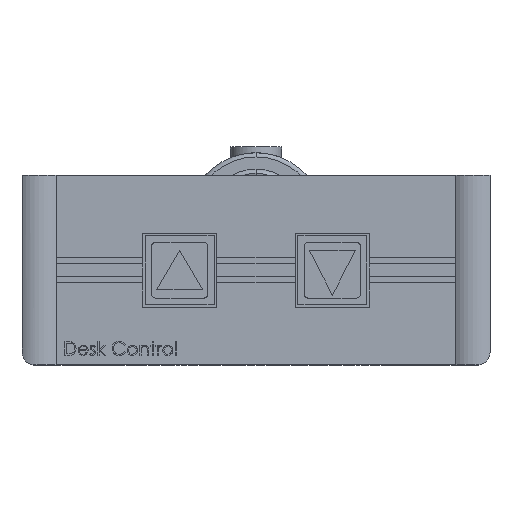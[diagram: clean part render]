
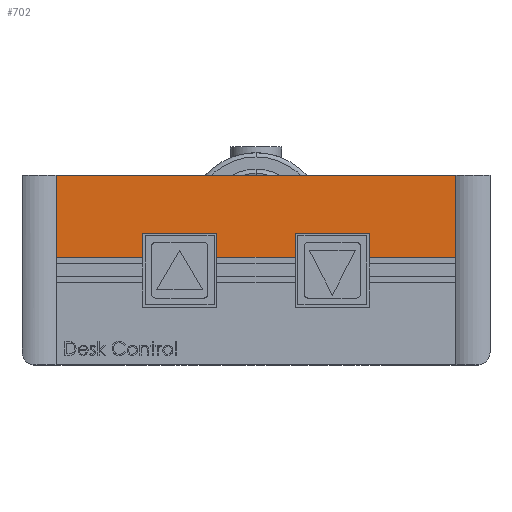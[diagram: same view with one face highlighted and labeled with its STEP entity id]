
A CAD part, top view. The second image highlights one B-rep face of the part: STEP entity #702.
In plain terms, the highlighted planar face has unit normal (0, 0, 1).
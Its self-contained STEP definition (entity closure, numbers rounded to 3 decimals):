
#129 = EDGE_LOOP ( 'NONE', ( #20656, #18508, #15160, #18070, #9671, #18267, #12223, #20232, #7310, #6179, #20312, #7216 ) ) ;
#225 = CARTESIAN_POINT ( 'NONE',  ( -13.325, 12.625, 0. ) ) ;
#275 = VERTEX_POINT ( 'NONE', #15391 ) ;
#702 = ADVANCED_FACE ( 'NONE', ( #13397 ), #9253, .F. ) ;
#735 = EDGE_CURVE ( 'NONE', #6056, #17823, #17400, .T. ) ;
#809 = EDGE_CURVE ( 'NONE', #20434, #21774, #20899, .T. ) ;
#822 = LINE ( 'NONE', #11779, #9906 ) ;
#942 = CARTESIAN_POINT ( 'NONE',  ( -23.5, 22.25, 0. ) ) ;
#2050 = VECTOR ( 'NONE', #17240, 1000. ) ;
#2600 = CARTESIAN_POINT ( 'NONE',  ( -23.5, 22.25, 0. ) ) ;
#2790 = DIRECTION ( 'NONE',  ( -1., 0., 0. ) ) ;
#2902 = DIRECTION ( 'NONE',  ( 0., -1., 0. ) ) ;
#3365 = LINE ( 'NONE', #21413, #21642 ) ;
#3378 = CARTESIAN_POINT ( 'NONE',  ( 13.325, 15.475, 0. ) ) ;
#3631 = EDGE_CURVE ( 'NONE', #21774, #15350, #8986, .T. ) ;
#3850 = LINE ( 'NONE', #15318, #16982 ) ;
#4334 = DIRECTION ( 'NONE',  ( 0., 0., -1. ) ) ;
#4396 = CARTESIAN_POINT ( 'NONE',  ( 4.625, 12.625, 0. ) ) ;
#4633 = VECTOR ( 'NONE', #2790, 1000. ) ;
#4738 = EDGE_CURVE ( 'NONE', #17823, #21224, #3365, .T. ) ;
#5155 = LINE ( 'NONE', #6234, #4633 ) ;
#5285 = DIRECTION ( 'NONE',  ( 0., 1., 0. ) ) ;
#5330 = DIRECTION ( 'NONE',  ( 0., -1., 0. ) ) ;
#5416 = CARTESIAN_POINT ( 'NONE',  ( -4.625, 15.475, 0. ) ) ;
#5726 = CARTESIAN_POINT ( 'NONE',  ( 13.325, 15.475, 0. ) ) ;
#6056 = VERTEX_POINT ( 'NONE', #7518 ) ;
#6179 = ORIENTED_EDGE ( 'NONE', *, *, #809, .F. ) ;
#6234 = CARTESIAN_POINT ( 'NONE',  ( 4.625, 15.475, 0. ) ) ;
#6514 = EDGE_CURVE ( 'NONE', #15350, #18775, #14846, .T. ) ;
#7216 = ORIENTED_EDGE ( 'NONE', *, *, #10413, .T. ) ;
#7310 = ORIENTED_EDGE ( 'NONE', *, *, #3631, .F. ) ;
#7518 = CARTESIAN_POINT ( 'NONE',  ( -13.325, 15.475, 0. ) ) ;
#7845 = EDGE_CURVE ( 'NONE', #18775, #14348, #5155, .T. ) ;
#8232 = LINE ( 'NONE', #5416, #2050 ) ;
#8234 = VERTEX_POINT ( 'NONE', #8811 ) ;
#8769 = VECTOR ( 'NONE', #14573, 1000. ) ;
#8811 = CARTESIAN_POINT ( 'NONE',  ( -4.625, 15.475, 0. ) ) ;
#8831 = AXIS2_PLACEMENT_3D ( 'NONE', #2600, #4334, #16295 ) ;
#8986 = LINE ( 'NONE', #10473, #22176 ) ;
#9253 = PLANE ( 'NONE',  #8831 ) ;
#9671 = ORIENTED_EDGE ( 'NONE', *, *, #14687, .F. ) ;
#9906 = VECTOR ( 'NONE', #16807, 1000. ) ;
#9934 = LINE ( 'NONE', #17313, #13943 ) ;
#10187 = DIRECTION ( 'NONE',  ( 0., 1., 0. ) ) ;
#10301 = LINE ( 'NONE', #17259, #18401 ) ;
#10413 = EDGE_CURVE ( 'NONE', #11389, #21224, #3850, .T. ) ;
#10473 = CARTESIAN_POINT ( 'NONE',  ( 23.5, 12.625, 0. ) ) ;
#10562 = CARTESIAN_POINT ( 'NONE',  ( 23.5, 22.25, 0. ) ) ;
#10677 = CARTESIAN_POINT ( 'NONE',  ( 13.325, 12.625, 0. ) ) ;
#10918 = CARTESIAN_POINT ( 'NONE',  ( -23.5, 12.625, 0. ) ) ;
#10969 = VERTEX_POINT ( 'NONE', #4396 ) ;
#11114 = DIRECTION ( 'NONE',  ( -1., 0., 0. ) ) ;
#11389 = VERTEX_POINT ( 'NONE', #942 ) ;
#11770 = VECTOR ( 'NONE', #2902, 1000. ) ;
#11779 = CARTESIAN_POINT ( 'NONE',  ( 4.625, 12.625, 0. ) ) ;
#12209 = DIRECTION ( 'NONE',  ( -1., 0., 0. ) ) ;
#12223 = ORIENTED_EDGE ( 'NONE', *, *, #7845, .F. ) ;
#12469 = CARTESIAN_POINT ( 'NONE',  ( 4.625, 15.475, 0. ) ) ;
#12849 = VECTOR ( 'NONE', #14644, 1000. ) ;
#12938 = CARTESIAN_POINT ( 'NONE',  ( -13.325, 15.475, 0. ) ) ;
#12995 = EDGE_CURVE ( 'NONE', #14348, #10969, #9934, .T. ) ;
#13397 = FACE_OUTER_BOUND ( 'NONE', #129, .T. ) ;
#13943 = VECTOR ( 'NONE', #5330, 1000. ) ;
#14293 = VECTOR ( 'NONE', #10187, 1000. ) ;
#14348 = VERTEX_POINT ( 'NONE', #12469 ) ;
#14573 = DIRECTION ( 'NONE',  ( 1., 0., 0. ) ) ;
#14644 = DIRECTION ( 'NONE',  ( 0., -1., 0. ) ) ;
#14687 = EDGE_CURVE ( 'NONE', #10969, #275, #822, .T. ) ;
#14846 = LINE ( 'NONE', #3378, #14293 ) ;
#14879 = CARTESIAN_POINT ( 'NONE',  ( 23.5, 22.25, 0. ) ) ;
#15160 = ORIENTED_EDGE ( 'NONE', *, *, #20413, .F. ) ;
#15318 = CARTESIAN_POINT ( 'NONE',  ( -23.5, 22.25, 0. ) ) ;
#15350 = VERTEX_POINT ( 'NONE', #10677 ) ;
#15391 = CARTESIAN_POINT ( 'NONE',  ( -4.625, 12.625, 0. ) ) ;
#16295 = DIRECTION ( 'NONE',  ( -1., 0., 0. ) ) ;
#16740 = EDGE_CURVE ( 'NONE', #11389, #20434, #17916, .T. ) ;
#16807 = DIRECTION ( 'NONE',  ( -1., 0., 0. ) ) ;
#16982 = VECTOR ( 'NONE', #17045, 1000. ) ;
#17045 = DIRECTION ( 'NONE',  ( 0., -1., 0. ) ) ;
#17240 = DIRECTION ( 'NONE',  ( -1., 0., 0. ) ) ;
#17259 = CARTESIAN_POINT ( 'NONE',  ( -4.625, 6.775, 0. ) ) ;
#17313 = CARTESIAN_POINT ( 'NONE',  ( 4.625, 6.775, 0. ) ) ;
#17400 = LINE ( 'NONE', #12938, #12849 ) ;
#17823 = VERTEX_POINT ( 'NONE', #225 ) ;
#17916 = LINE ( 'NONE', #17984, #8769 ) ;
#17984 = CARTESIAN_POINT ( 'NONE',  ( -23.5, 22.25, 0. ) ) ;
#18070 = ORIENTED_EDGE ( 'NONE', *, *, #18727, .F. ) ;
#18267 = ORIENTED_EDGE ( 'NONE', *, *, #12995, .F. ) ;
#18401 = VECTOR ( 'NONE', #5285, 1000. ) ;
#18508 = ORIENTED_EDGE ( 'NONE', *, *, #735, .F. ) ;
#18727 = EDGE_CURVE ( 'NONE', #275, #8234, #10301, .T. ) ;
#18775 = VERTEX_POINT ( 'NONE', #5726 ) ;
#18852 = CARTESIAN_POINT ( 'NONE',  ( 23.5, 12.625, 0. ) ) ;
#20232 = ORIENTED_EDGE ( 'NONE', *, *, #6514, .F. ) ;
#20312 = ORIENTED_EDGE ( 'NONE', *, *, #16740, .F. ) ;
#20413 = EDGE_CURVE ( 'NONE', #8234, #6056, #8232, .T. ) ;
#20434 = VERTEX_POINT ( 'NONE', #10562 ) ;
#20656 = ORIENTED_EDGE ( 'NONE', *, *, #4738, .F. ) ;
#20899 = LINE ( 'NONE', #14879, #11770 ) ;
#21224 = VERTEX_POINT ( 'NONE', #10918 ) ;
#21413 = CARTESIAN_POINT ( 'NONE',  ( -23.5, 12.625, 0. ) ) ;
#21642 = VECTOR ( 'NONE', #11114, 1000. ) ;
#21774 = VERTEX_POINT ( 'NONE', #18852 ) ;
#22176 = VECTOR ( 'NONE', #12209, 1000. ) ;
